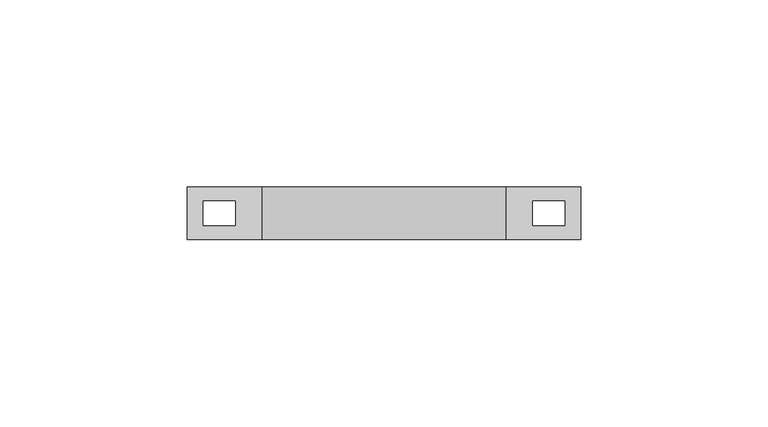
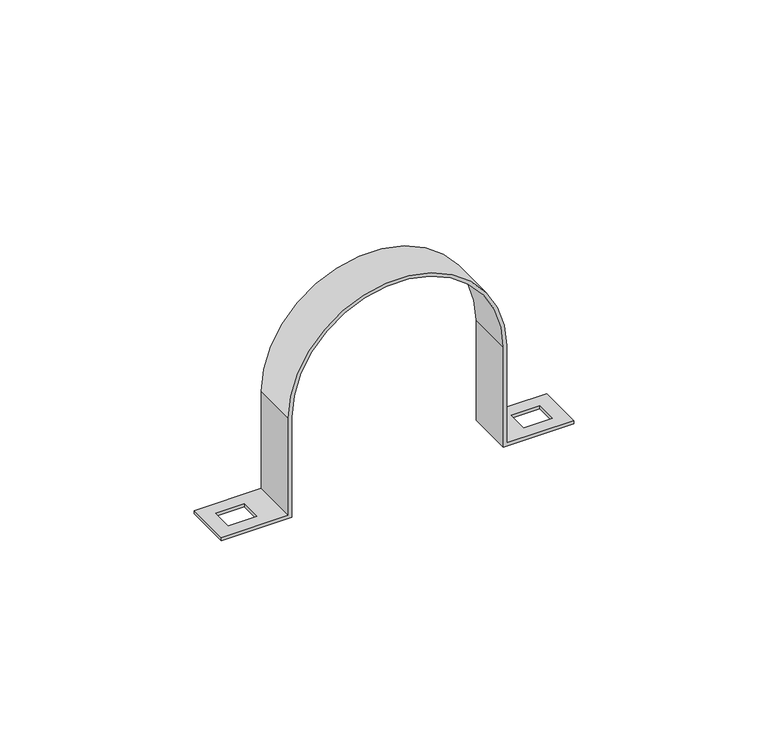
"""IFC4 building model written with IfcOpenShell, lengths in millimetres: cable carrier fitting geometry, КНС_ДержательОцинкованныйДвусторонний_DKC : д.63мм."""

from ifc_helpers import new_model, si_unit, frame, origin, place, context, project, spatial, polyline, circle_curve, source, transform, mapped, element, save
from ifc_brep_helpers import plane_surface, cylinder_surface, revolved_surface, advanced_brep


def cable_carrier_fitting_015eeb92(model_context):
    return source(origin(), model_context, "Body", "AdvancedBrep", [
        advanced_brep(
        [(52.5, -7.0, 0.0), (52.5, -7.0, 1.0), (32.5, -7.0, 1.0), (32.5, -7.0, 31.5), (-32.5, -7.0, 31.5), (-32.5, -7.0, 1.0), (-52.5, -7.0, 1.0), (-52.5, -7.0, 0.0), (-31.5, -7.0, 0.0), (-31.5, -7.0, 31.5), (31.5, -7.0, 31.5), (31.5, -7.0, 0.0), (52.5, 7.0, 0.0), (31.5, 7.0, 0.0), (31.5, 7.0, 31.5), (-31.5, 7.0, 31.5), (-31.5, 7.0, 0.0), (-52.5, 7.0, 0.0), (-52.5, 7.0, 1.0), (-32.5, 7.0, 1.0), (-32.5, 7.0, 31.5), (32.5, 7.0, 31.5), (32.5, 7.0, 1.0), (52.5, 7.0, 1.0), (48.25, -3.25, 1.0), (39.75, -3.25, 1.0), (39.75, 3.25, 1.0), (48.25, 3.25, 1.0), (-48.25, 3.25, 1.0), (-39.75, 3.25, 1.0), (-39.75, -3.25, 1.0), (-48.25, -3.25, 1.0), (-39.75, 3.25, 0.0), (-48.25, 3.25, 0.0), (-48.25, -3.25, 0.0), (-39.75, -3.25, 0.0), (39.75, -3.25, 0.0), (48.25, -3.25, 0.0), (48.25, 3.25, 0.0), (39.75, 3.25, 0.0)],
        [
            (0, 1),
            (1, 2),
            (2, 3),
            (3, 4, circle_curve(frame((0.0, -7.0, 31.5), z_axis=(0.0, -1.0, 0.0), x_axis=(1.0, 0.0, 0.0)), 32.5)),
            (4, 5),
            (5, 6),
            (6, 7),
            (7, 8),
            (8, 9),
            (9, 10, circle_curve(frame((0.0, -7.0, 31.5), z_axis=(0.0, 1.0, 0.0), x_axis=(1.0, 0.0, 0.0)), 31.5)),
            (10, 11),
            (11, 0),
            (12, 13),
            (13, 14),
            (14, 15, circle_curve(frame((0.0, 7.0, 31.5), z_axis=(0.0, -1.0, 0.0), x_axis=(1.0, 0.0, 0.0)), 31.5)),
            (15, 16),
            (16, 17),
            (17, 18),
            (18, 19),
            (19, 20),
            (20, 21, circle_curve(frame((0.0, 7.0, 31.5), z_axis=(0.0, 1.0, 0.0), x_axis=(1.0, 0.0, 0.0)), 32.5)),
            (21, 22),
            (22, 23),
            (23, 12),
            (0, 12),
            (23, 1),
            (22, 2),
            (24, 25),
            (25, 26),
            (26, 27),
            (27, 24),
            (21, 3),
            (20, 4),
            (19, 5),
            (18, 6),
            (28, 29),
            (29, 30),
            (30, 31),
            (31, 28),
            (17, 7),
            (16, 8),
            (32, 33),
            (33, 34),
            (34, 35),
            (35, 32),
            (15, 9),
            (14, 10),
            (13, 11),
            (36, 37),
            (37, 38),
            (38, 39),
            (39, 36),
            (32, 29),
            (28, 33),
            (31, 34),
            (30, 35),
            (36, 25),
            (24, 37),
            (27, 38),
            (26, 39),
        ],
        [
            plane_surface(frame((52.5, -7.0, 1.0), z_axis=(0.0, -1.0, 0.0), x_axis=(0.0, 0.0, 1.0))),
            plane_surface(frame((52.5, 7.0, 1.0), z_axis=(0.0, 1.0, 0.0), x_axis=(0.0, 0.0, -1.0))),
            plane_surface(frame((52.5, -7.0, 0.0), z_axis=(1.0, 0.0, 0.0), x_axis=(0.0, 1.0, 0.0))),
            plane_surface(frame((52.5, -7.0, 1.0), z_axis=(0.0, 0.0, 1.0), x_axis=(0.0, 1.0, 0.0))),
            plane_surface(frame((32.5, -7.0, 1.0), z_axis=(1.0, 0.0, 0.0), x_axis=(0.0, 1.0, 0.0))),
            cylinder_surface(frame((0.0, 7.0, 31.5), z_axis=(0.0, -1.0, 0.0), x_axis=(1.0, 0.0, 0.0)), 32.5),
            plane_surface(frame((-32.5, -7.0, 31.5), z_axis=(-1.0, 0.0, 0.0), x_axis=(0.0, 1.0, 0.0))),
            plane_surface(frame((-32.5, -7.0, 1.0), z_axis=(0.0, 0.0, 1.0), x_axis=(0.0, 1.0, 0.0))),
            plane_surface(frame((-52.5, -7.0, 1.0), z_axis=(-1.0, 0.0, 0.0), x_axis=(0.0, 1.0, 0.0))),
            plane_surface(frame((-52.5, -7.0, 0.0), z_axis=(0.0, 0.0, -1.0), x_axis=(0.0, 1.0, 0.0))),
            plane_surface(frame((-31.5, -7.0, 0.0), z_axis=(1.0, 0.0, 0.0), x_axis=(0.0, 1.0, 0.0))),
            revolved_surface(polyline([(31.5, 7.0, 31.5), (31.5, -7.0, 31.5)]), (0.0, 7.0, 31.5), (0.0, 1.0, 0.0)),
            plane_surface(frame((31.5, -7.0, 31.5), z_axis=(-1.0, 0.0, 0.0), x_axis=(0.0, 1.0, 0.0))),
            plane_surface(frame((31.5, -7.0, 0.0), z_axis=(0.0, 0.0, -1.0), x_axis=(0.0, 1.0, 0.0))),
            plane_surface(frame((-39.75, 3.25, 21.959409), z_axis=(0.0, -1.0, 0.0), x_axis=(0.0, 0.0, -1.0))),
            plane_surface(frame((-48.25, 3.25, 21.959409), z_axis=(1.0, 0.0, 0.0), x_axis=(0.0, 0.0, -1.0))),
            plane_surface(frame((-48.25, -3.25, 21.959409), z_axis=(0.0, 1.0, 0.0), x_axis=(0.0, 0.0, -1.0))),
            plane_surface(frame((-39.75, -3.25, 21.959409), z_axis=(-1.0, 0.0, 0.0), x_axis=(0.0, 0.0, -1.0))),
            plane_surface(frame((39.75, -3.25, 21.959409), z_axis=(0.0, 1.0, 0.0), x_axis=(0.0, 0.0, -1.0))),
            plane_surface(frame((48.25, -3.25, 21.959409), z_axis=(-1.0, 0.0, 0.0), x_axis=(0.0, 0.0, -1.0))),
            plane_surface(frame((48.25, 3.25, 21.959409), z_axis=(0.0, -1.0, 0.0), x_axis=(0.0, 0.0, -1.0))),
            plane_surface(frame((39.75, 3.25, 21.959409), z_axis=(1.0, 0.0, 0.0), x_axis=(0.0, 0.0, -1.0))),
        ],
        [
            (0, [[1, 2, 3, 4, 5, 6, 7, 8, 9, 10, 11, 12]]),
            (1, [[13, 14, 15, 16, 17, 18, 19, 20, 21, 22, 23, 24]]),
            (2, [[-1, 25, -24, 26]]),
            (3, [[-2, -26, -23, 27], [28, 29, 30, 31]]),
            (4, [[-3, -27, -22, 32]]),
            (5, [[-4, -32, -21, 33]]),
            (6, [[-5, -33, -20, 34]]),
            (7, [[-6, -34, -19, 35], [36, 37, 38, 39]]),
            (8, [[-7, -35, -18, 40]]),
            (9, [[-8, -40, -17, 41], [42, 43, 44, 45]]),
            (10, [[-9, -41, -16, 46]]),
            (11, [[-10, -46, -15, 47]]),
            (12, [[-11, -47, -14, 48]]),
            (13, [[-12, -48, -13, -25], [49, 50, 51, 52]]),
            (14, [[53, -36, 54, -42]]),
            (15, [[-54, -39, 55, -43]]),
            (16, [[-55, -38, 56, -44]]),
            (17, [[-53, -45, -56, -37]]),
            (18, [[57, -28, 58, -49]]),
            (19, [[-58, -31, 59, -50]]),
            (20, [[-59, -30, 60, -51]]),
            (21, [[-57, -52, -60, -29]]),
        ],
    ),
    ])


if __name__ == "__main__":
    model = new_model("IFC4")
    model_context = context("Model", 3, world=origin())
    ifc_project = project(units=[si_unit("LENGTHUNIT", "METRE", prefix="MILLI")], contexts=[model_context])
    site = spatial("IfcSite", under=ifc_project)
    building = spatial("IfcBuilding", under=site)
    placement = place(None, origin())
    cable_carrier_fitting_shape = cable_carrier_fitting_015eeb92(model_context)
    element("IfcCableCarrierFitting", 1, ObjectType="КНС_ДержательОцинкованныйДвусторонний_DKC : д.63мм", at=placement, inside=building, context=model_context, shape_type="MappedRepresentation", body=[
        mapped(cable_carrier_fitting_shape, transform((0.0, 0.0, 0.0), x_axis=(1.0, 0.0, 0.0), y_axis=(0.0, 1.0, 0.0), z_axis=(0.0, 0.0, 1.0))),
    ])
    save(model, "model.ifc")
